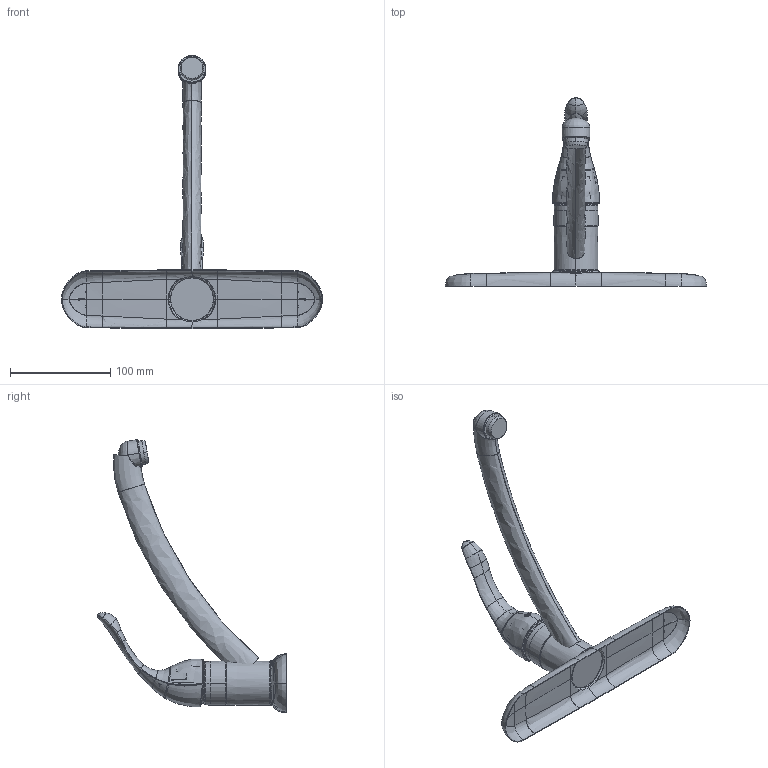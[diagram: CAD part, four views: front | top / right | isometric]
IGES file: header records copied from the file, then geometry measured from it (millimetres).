
Start section:  PTC IGES file: sku_7425.igs
Global section: file name: sku_7425.igs; native system: Pro/ENGINEER by Parametric Technology Corporation; preprocessor: 2006460; author: 9dutterb; organization: Unknown; date: 20071220.170031; units: inch
Bounding box: 260.3 x 187.92 x 272.21 mm (x, y, z)
Surface area: 86750 mm2 (no closed solid volume)
Topology: 0 solids, 0 shells, 334 faces, 1579 edges, 1564 vertices
Faces by surface type: bspline 223, revolution 97, extrusion 14
